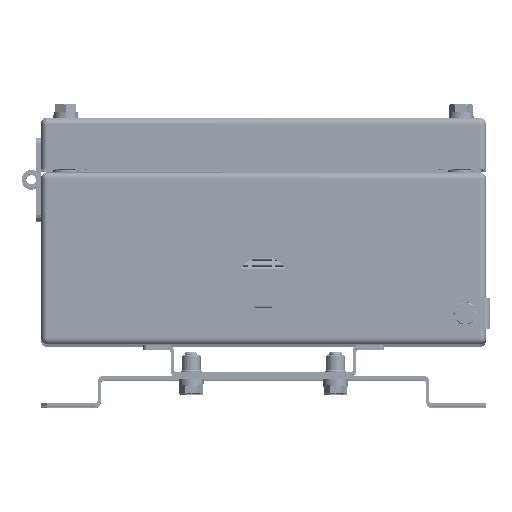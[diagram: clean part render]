
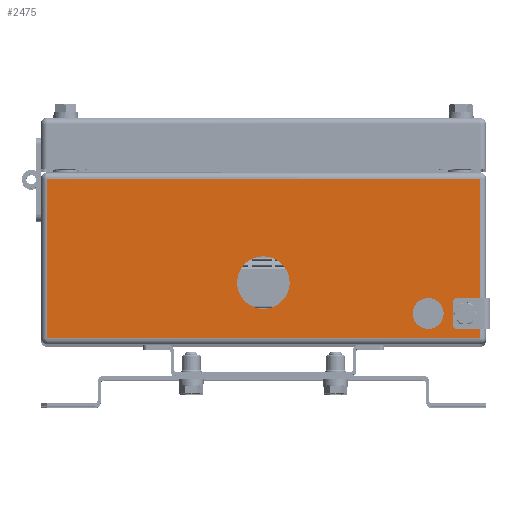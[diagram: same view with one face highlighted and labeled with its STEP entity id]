
A CAD part, top view. The second image highlights one B-rep face of the part: STEP entity #2475.
In plain terms, the highlighted planar face has unit normal (0, 0, 1).
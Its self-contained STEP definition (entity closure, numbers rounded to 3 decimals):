
#2368=CARTESIAN_POINT('',(87.5,-26.75,348.));
#2369=VERTEX_POINT('',#2368);
#2370=CARTESIAN_POINT('',(80.0,-26.75,348.));
#2371=DIRECTION('',(0.0,0.0,-1.0));
#2372=DIRECTION('',(-1.0,0.0,0.0));
#2373=AXIS2_PLACEMENT_3D('',#2370,#2371,#2372);
#2374=CIRCLE('',#2373,7.5);
#2375=EDGE_CURVE('',#2369,#2369,#2374,.T.);
#2411=CARTESIAN_POINT('',(-103.565,-15.903,348.));
#2412=DIRECTION('',(0.0,0.0,1.0));
#2413=DIRECTION('',(1.0,0.0,0.0));
#2414=AXIS2_PLACEMENT_3D('',#2411,#2412,#2413);
#2415=PLANE('',#2414);
#2416=CARTESIAN_POINT('',(-105.0,-38.75,348.));
#2417=VERTEX_POINT('',#2416);
#2418=CARTESIAN_POINT('',(-105.0,38.75,348.));
#2419=VERTEX_POINT('',#2418);
#2420=CARTESIAN_POINT('',(-105.0,-38.75,348.));
#2421=DIRECTION('',(0.0,1.0,0.0));
#2422=VECTOR('',#2421,77.5);
#2423=LINE('',#2420,#2422);
#2424=EDGE_CURVE('',#2417,#2419,#2423,.T.);
#2425=ORIENTED_EDGE('',*,*,#2424,.F.);
#2426=CARTESIAN_POINT('',(105.0,-38.75,348.));
#2427=VERTEX_POINT('',#2426);
#2428=CARTESIAN_POINT('',(105.0,-38.75,348.));
#2429=DIRECTION('',(-1.0,0.0,0.0));
#2430=VECTOR('',#2429,210.0);
#2431=LINE('',#2428,#2430);
#2432=EDGE_CURVE('',#2427,#2417,#2431,.T.);
#2433=ORIENTED_EDGE('',*,*,#2432,.F.);
#2434=CARTESIAN_POINT('',(105.0,38.75,348.));
#2435=VERTEX_POINT('',#2434);
#2436=CARTESIAN_POINT('',(105.0,38.75,348.));
#2437=DIRECTION('',(0.0,-1.0,0.0));
#2438=VECTOR('',#2437,77.5);
#2439=LINE('',#2436,#2438);
#2440=EDGE_CURVE('',#2435,#2427,#2439,.T.);
#2441=ORIENTED_EDGE('',*,*,#2440,.F.);
#2442=CARTESIAN_POINT('',(-105.0,38.75,348.));
#2443=DIRECTION('',(1.0,0.0,0.0));
#2444=VECTOR('',#2443,210.0);
#2445=LINE('',#2442,#2444);
#2446=EDGE_CURVE('',#2419,#2435,#2445,.T.);
#2447=ORIENTED_EDGE('',*,*,#2446,.F.);
#2448=EDGE_LOOP('',(#2425,#2433,#2441,#2447));
#2449=FACE_OUTER_BOUND('',#2448,.T.);
#2450=CARTESIAN_POINT('',(12.75,-11.75,348.));
#2451=VERTEX_POINT('',#2450);
#2452=CARTESIAN_POINT('',(0.0,-11.75,348.));
#2453=DIRECTION('',(0.0,0.0,-1.0));
#2454=DIRECTION('',(1.0,0.0,0.0));
#2455=AXIS2_PLACEMENT_3D('',#2452,#2453,#2454);
#2456=CIRCLE('',#2455,12.75);
#2457=EDGE_CURVE('',#2451,#2451,#2456,.T.);
#2458=ORIENTED_EDGE('',*,*,#2457,.T.);
#2459=EDGE_LOOP('',(#2458));
#2460=FACE_BOUND('',#2459,.T.);
#2461=CARTESIAN_POINT('',(102.5,-26.75,348.));
#2462=VERTEX_POINT('',#2461);
#2463=CARTESIAN_POINT('',(98.0,-26.75,348.));
#2464=DIRECTION('',(0.0,0.0,-1.0));
#2465=DIRECTION('',(1.0,0.0,0.0));
#2466=AXIS2_PLACEMENT_3D('',#2463,#2464,#2465);
#2467=CIRCLE('',#2466,4.5);
#2468=EDGE_CURVE('',#2462,#2462,#2467,.T.);
#2469=ORIENTED_EDGE('',*,*,#2468,.T.);
#2470=EDGE_LOOP('',(#2469));
#2471=FACE_BOUND('',#2470,.T.);
#2472=ORIENTED_EDGE('',*,*,#2375,.T.);
#2473=EDGE_LOOP('',(#2472));
#2474=FACE_BOUND('',#2473,.T.);
#2475=ADVANCED_FACE('',(#2449,#2460,#2471,#2474),#2415,.T.);
